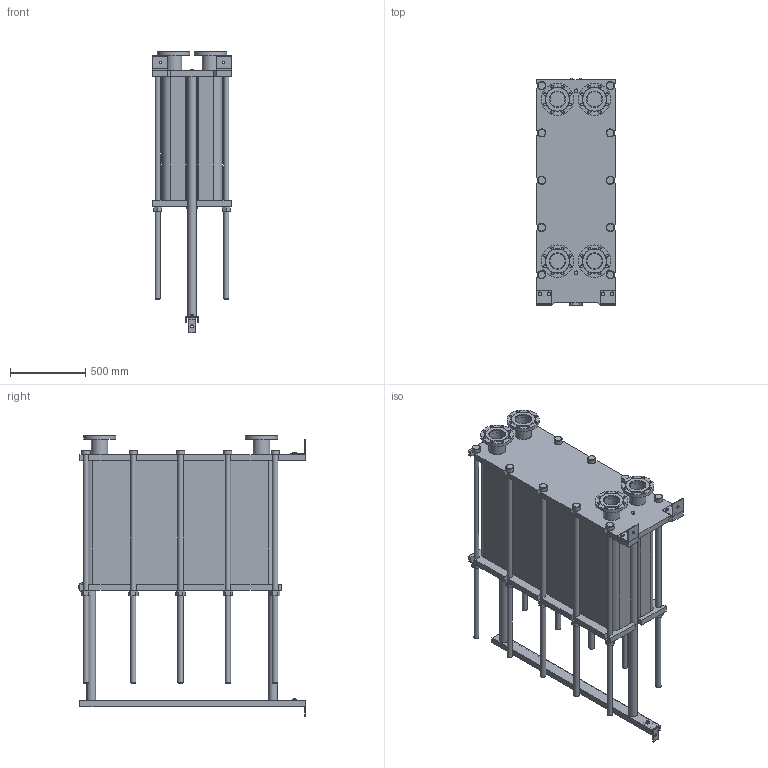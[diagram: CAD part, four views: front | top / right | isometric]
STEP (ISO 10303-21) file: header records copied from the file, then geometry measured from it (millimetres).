
FILE_DESCRIPTION(/* description */ (''),/* implementation_level */ '2;1');
FILE_NAME(/* name */ 'C:\Users\zhuro\Desktop\ENCO\TO\ЭН-04\ЭН-0,5-04-238-1.stp',/* time_stamp */ '2022-06-06T11:06:07+03:00',/* author */ ('zhuro'),/* organization */ (''),/* preprocessor_version */ 'ST-DEVELOPER v18.1',/* originating_system */ 'Autodesk Inventor 2022',/* authorisation */ '');
FILE_SCHEMA (('AUTOMOTIVE_DESIGN { 1 0 10303 214 3 1 1 }'));
Length unit declared in the file: millimetre
Products named in the file (1): ЭН-0,5-04-238-1
Bounding box: 520 x 1510 x 1874 mm (x, y, z)
Volume: 488984316.2 mm3; surface area: 11389895 mm2
Topology: 45 solids, 45 shells, 668 faces, 1611 edges, 1048 vertices
Faces by surface type: plane 457, cylinder 166, cone 39, torus 6
Full cylindrical faces by diameter (mm): 8 x4, 10 x2, 16 x8, 18 x35, 36 x25, 40 x2, 42 x1, 45 x4, 54 x10, 57 x2, 60 x10, 68 x2, 100 x4, 110 x8, 215 x4
Entity records: 23607 total; most frequent: CARTESIAN_POINT 7348, DIRECTION 3371, ORIENTED_EDGE 3142, EDGE_CURVE 1571, AXIS2_PLACEMENT_3D 1199, VERTEX_POINT 1044, LINE 973, VECTOR 973
